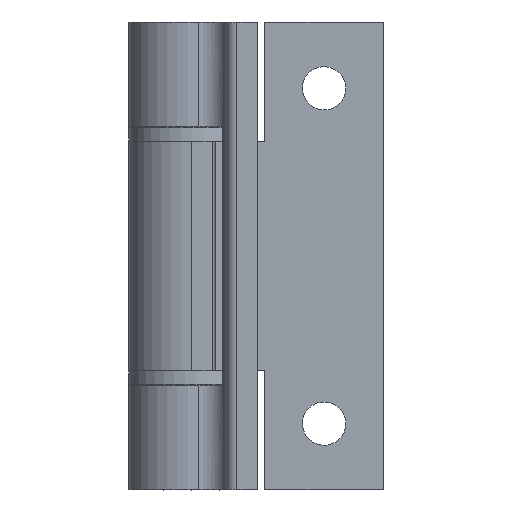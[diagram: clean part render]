
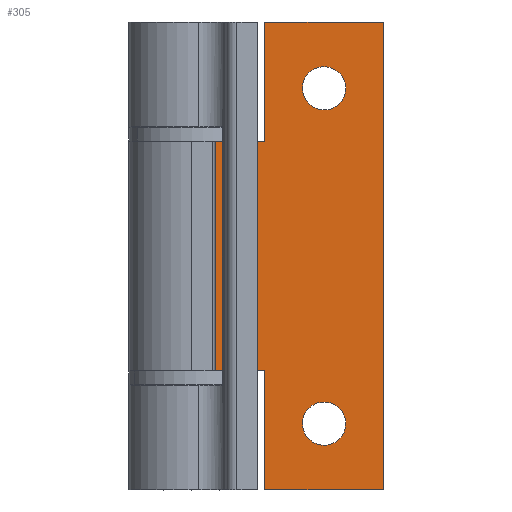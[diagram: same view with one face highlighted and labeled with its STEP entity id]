
A CAD part, left-side view. The second image highlights one B-rep face of the part: STEP entity #305.
In plain terms, the highlighted planar face has unit normal (-1, 0, 0).
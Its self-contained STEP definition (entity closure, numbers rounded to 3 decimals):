
#305=ADVANCED_FACE('',(#521,#522,#523),#524,.T.);
#521=FACE_OUTER_BOUND('',#907,.T.);
#522=FACE_BOUND('',#908,.T.);
#523=FACE_BOUND('',#909,.T.);
#524=PLANE('',#910);
#907=EDGE_LOOP('',(#2592,#2593,#2594,#2595,#2596,#2597,#2598,#2599));
#908=EDGE_LOOP('',(#2600,#2601,#2602));
#909=EDGE_LOOP('',(#2603,#2604,#2605));
#910=AXIS2_PLACEMENT_3D('',#2606,#2607,#2608);
#2592=ORIENTED_EDGE('',*,*,#3740,.T.);
#2593=ORIENTED_EDGE('',*,*,#3777,.T.);
#2594=ORIENTED_EDGE('',*,*,#3754,.T.);
#2595=ORIENTED_EDGE('',*,*,#3751,.T.);
#2596=ORIENTED_EDGE('',*,*,#3778,.T.);
#2597=ORIENTED_EDGE('',*,*,#3779,.F.);
#2598=ORIENTED_EDGE('',*,*,#3766,.T.);
#2599=ORIENTED_EDGE('',*,*,#3734,.T.);
#2600=ORIENTED_EDGE('',*,*,#3724,.T.);
#2601=ORIENTED_EDGE('',*,*,#3713,.T.);
#2602=ORIENTED_EDGE('',*,*,#3725,.T.);
#2603=ORIENTED_EDGE('',*,*,#3730,.T.);
#2604=ORIENTED_EDGE('',*,*,#3703,.T.);
#2605=ORIENTED_EDGE('',*,*,#3731,.T.);
#2606=CARTESIAN_POINT('',(-9.5,-3.5,0.0));
#2607=DIRECTION('',(-1.0,0.,-0.0));
#2608=DIRECTION('',(0.0,0.0,-1.0));
#3703=EDGE_CURVE('',#4234,#4238,#4240,.T.);
#3713=EDGE_CURVE('',#4254,#4258,#4260,.T.);
#3724=EDGE_CURVE('',#4278,#4254,#4279,.T.);
#3725=EDGE_CURVE('',#4258,#4278,#4280,.T.);
#3730=EDGE_CURVE('',#4286,#4234,#4287,.T.);
#3731=EDGE_CURVE('',#4238,#4286,#4288,.T.);
#3734=EDGE_CURVE('',#4294,#4292,#4295,.T.);
#3740=EDGE_CURVE('',#4292,#4302,#4304,.T.);
#3751=EDGE_CURVE('',#4320,#4318,#4321,.T.);
#3754=EDGE_CURVE('',#4324,#4320,#4325,.T.);
#3766=EDGE_CURVE('',#4341,#4294,#4342,.T.);
#3777=EDGE_CURVE('',#4302,#4324,#4357,.T.);
#3778=EDGE_CURVE('',#4318,#4358,#4359,.T.);
#3779=EDGE_CURVE('',#4341,#4358,#4360,.T.);
#4234=VERTEX_POINT('',#4998);
#4238=VERTEX_POINT('',#5003);
#4240=CIRCLE('',#5006,3.1);
#4254=VERTEX_POINT('',#5022);
#4258=VERTEX_POINT('',#5027);
#4260=CIRCLE('',#5030,3.1);
#4278=VERTEX_POINT('',#5050);
#4279=CIRCLE('',#5051,3.1);
#4280=CIRCLE('',#5052,3.1);
#4286=VERTEX_POINT('',#5058);
#4287=CIRCLE('',#5059,3.1);
#4288=CIRCLE('',#5060,3.1);
#4292=VERTEX_POINT('',#5065);
#4294=VERTEX_POINT('',#5068);
#4295=LINE('',#5069,#5070);
#4302=VERTEX_POINT('',#5079);
#4304=LINE('',#5081,#5082);
#4318=VERTEX_POINT('',#5097);
#4320=VERTEX_POINT('',#5100);
#4321=LINE('',#5101,#5102);
#4324=VERTEX_POINT('',#5106);
#4325=LINE('',#5107,#5108);
#4341=VERTEX_POINT('',#5125);
#4342=LINE('',#5126,#5127);
#4357=LINE('',#5149,#5150);
#4358=VERTEX_POINT('',#5151);
#4359=LINE('',#5152,#5153);
#4360=LINE('',#5154,#5155);
#4998=CARTESIAN_POINT('',(-9.5,-18.089,-6.537));
#5003=CARTESIAN_POINT('',(-9.5,-19.911,-12.463));
#5006=AXIS2_PLACEMENT_3D('',#5932,#5933,#5934);
#5022=CARTESIAN_POINT('',(-9.5,-18.089,-54.537));
#5027=CARTESIAN_POINT('',(-9.5,-19.911,-60.463));
#5030=AXIS2_PLACEMENT_3D('',#5954,#5955,#5956);
#5050=CARTESIAN_POINT('',(-9.5,-15.9,-57.5));
#5051=AXIS2_PLACEMENT_3D('',#5983,#5984,#5985);
#5052=AXIS2_PLACEMENT_3D('',#5986,#5987,#5988);
#5058=CARTESIAN_POINT('',(-9.5,-15.9,-9.5));
#5059=AXIS2_PLACEMENT_3D('',#6001,#6002,#6003);
#5060=AXIS2_PLACEMENT_3D('',#6004,#6005,#6006);
#5065=CARTESIAN_POINT('',(-9.5,-10.5,-17.1));
#5068=CARTESIAN_POINT('',(-9.5,-10.5,0.0));
#5069=CARTESIAN_POINT('',(-9.5,-10.5,0.0));
#5070=VECTOR('',#6009,17.1);
#5079=CARTESIAN_POINT('',(-9.5,-3.5,-17.1));
#5081=CARTESIAN_POINT('',(-9.5,-10.5,-17.1));
#5082=VECTOR('',#6021,7.0);
#5097=CARTESIAN_POINT('',(-9.5,-10.5,-67.0));
#5100=CARTESIAN_POINT('',(-9.5,-10.5,-49.9));
#5101=CARTESIAN_POINT('',(-9.5,-10.5,-49.9));
#5102=VECTOR('',#6048,17.1);
#5106=CARTESIAN_POINT('',(-9.5,-3.5,-49.9));
#5107=CARTESIAN_POINT('',(-9.5,-3.5,-49.9));
#5108=VECTOR('',#6053,7.0);
#5125=CARTESIAN_POINT('',(-9.5,-27.5,0.0));
#5126=CARTESIAN_POINT('',(-9.5,-27.5,0.0));
#5127=VECTOR('',#6085,17.0);
#5149=CARTESIAN_POINT('',(-9.5,-3.5,-17.1));
#5150=VECTOR('',#6102,32.8);
#5151=CARTESIAN_POINT('',(-9.5,-27.5,-67.0));
#5152=CARTESIAN_POINT('',(-9.5,-10.5,-67.0));
#5153=VECTOR('',#6103,17.0);
#5154=CARTESIAN_POINT('',(-9.5,-27.5,0.0));
#5155=VECTOR('',#6104,67.0);
#5932=CARTESIAN_POINT('',(-9.5,-19.0,-9.5));
#5933=DIRECTION('',(1.0,0.,0.0));
#5934=DIRECTION('',(0.,-1.0,0.0));
#5954=CARTESIAN_POINT('',(-9.5,-19.0,-57.5));
#5955=DIRECTION('',(1.0,0.,0.0));
#5956=DIRECTION('',(0.,-1.0,0.0));
#5983=CARTESIAN_POINT('',(-9.5,-19.0,-57.5));
#5984=DIRECTION('',(1.0,0.,0.0));
#5985=DIRECTION('',(0.,-1.0,0.0));
#5986=CARTESIAN_POINT('',(-9.5,-19.0,-57.5));
#5987=DIRECTION('',(1.0,0.,0.0));
#5988=DIRECTION('',(0.,-1.0,0.0));
#6001=CARTESIAN_POINT('',(-9.5,-19.0,-9.5));
#6002=DIRECTION('',(1.0,0.,0.0));
#6003=DIRECTION('',(0.,-1.0,0.0));
#6004=CARTESIAN_POINT('',(-9.5,-19.0,-9.5));
#6005=DIRECTION('',(1.0,0.,0.0));
#6006=DIRECTION('',(0.,-1.0,0.0));
#6009=DIRECTION('',(0.0,0.0,-1.0));
#6021=DIRECTION('',(0.,1.0,0.0));
#6048=DIRECTION('',(0.0,0.0,-1.0));
#6053=DIRECTION('',(0.,-1.0,0.0));
#6085=DIRECTION('',(0.,1.0,0.0));
#6102=DIRECTION('',(0.0,0.0,-1.0));
#6103=DIRECTION('',(0.,-1.0,0.0));
#6104=DIRECTION('',(0.0,0.0,-1.0));
